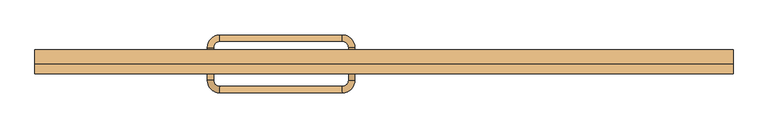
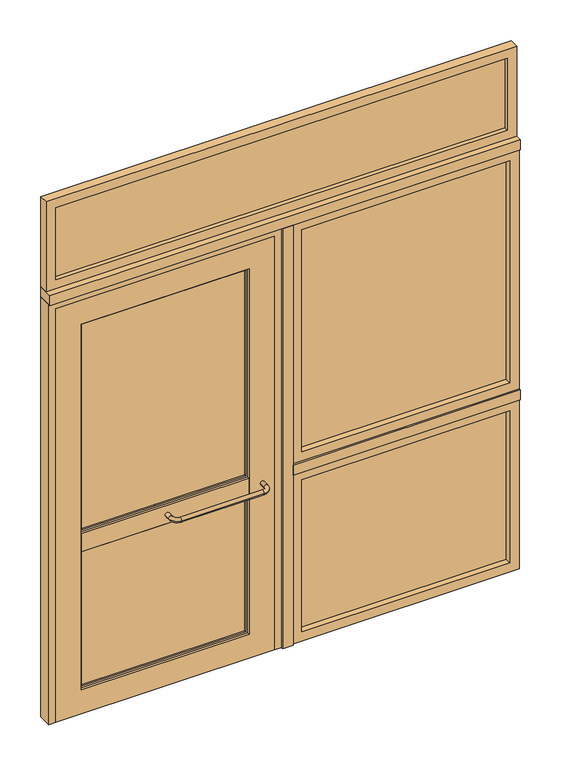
"""IFC4 building model written with IfcOpenShell, lengths in millimetres: door geometry, A2 Puerta batiente exterior con panel lateral VF superior : A2.2 Puerta batiente exterior con panel lateral 223x260."""

from ifc_helpers import new_model, si_unit, point, frame, origin, origin_with_axes, place, context, project, spatial, polyline, circle_curve, ellipse_curve, trimmed, outline, extrude, source, transform, mapped, element, save
from ifc_brep_helpers import plane_surface, cylinder_surface, revolved_surface, advanced_brep


def door_41fe6f03(model_context):
    return source(origin(), model_context, "Body", "SolidModel", [
        advanced_brep(
        [(-113.0, -28.5, 855.0), (-93.0, -28.5, 855.0), (-113.0, -58.5, 855.0), (-93.0, -58.5, 855.0), (-133.0, -78.5, 855.0), (-133.0, -98.5, 855.0), (-523.0, -78.5, 855.0), (-523.0, -98.5, 855.0), (-543.0, -58.5, 855.0), (-563.0, -58.5, 855.0), (-543.0, -28.5, 855.0), (-563.0, -28.5, 855.0)],
        [
            (0, 1, circle_curve(frame((-103.0, -28.5, 855.0), z_axis=(0.0, 1.0, 0.0), x_axis=(1.0, 0.0, 0.0)), 10.0)),
            (1, 0, circle_curve(frame((-103.0, -28.5, 855.0), z_axis=(0.0, 1.0, 0.0), x_axis=(1.0, 0.0, 0.0)), 10.0)),
            (0, 2),
            (2, 3, circle_curve(frame((-103.0, -58.5, 855.0), z_axis=(0.0, 1.0, 0.0), x_axis=(1.0, 0.0, 0.0)), 10.0)),
            (3, 1),
            (3, 2, circle_curve(frame((-103.0, -58.5, 855.0), z_axis=(0.0, 1.0, 0.0), x_axis=(1.0, 0.0, 0.0)), 10.0)),
            (4, 5, circle_curve(frame((-133.0, -88.5, 855.0), z_axis=(1.0, 0.0, 0.0), x_axis=(0.0, -1.0, 0.0)), 10.0)),
            (5, 3, circle_curve(frame((-133.0, -58.5, 855.0), z_axis=(0.0, 0.0, 1.0), x_axis=(1.0, 0.0, 0.0)), 40.0)),
            (2, 4, circle_curve(frame((-133.0, -58.5, 855.0), z_axis=(0.0, 0.0, -1.0), x_axis=(1.0, 0.0, 0.0)), 20.0)),
            (5, 4, circle_curve(frame((-133.0, -88.5, 855.0), z_axis=(1.0, 0.0, 0.0), x_axis=(0.0, -1.0, 0.0)), 10.0)),
            (4, 6),
            (6, 7, circle_curve(frame((-523.0, -88.5, 855.0), z_axis=(1.0, 0.0, 0.0), x_axis=(0.0, -1.0, 0.0)), 10.0)),
            (7, 5),
            (7, 6, circle_curve(frame((-523.0, -88.5, 855.0), z_axis=(1.0, 0.0, 0.0), x_axis=(0.0, -1.0, 0.0)), 10.0)),
            (8, 9, circle_curve(frame((-553.0, -58.5, 855.0), z_axis=(0.0, -1.0, 0.0), x_axis=(-1.0, 0.0, 0.0)), 10.0)),
            (9, 7, circle_curve(frame((-523.0, -58.5, 855.0), z_axis=(0.0, 0.0, 1.0), x_axis=(0.0, -1.0, 0.0)), 40.0)),
            (6, 8, circle_curve(frame((-523.0, -58.5, 855.0), z_axis=(0.0, 0.0, -1.0), x_axis=(0.0, -1.0, 0.0)), 20.0)),
            (9, 8, circle_curve(frame((-553.0, -58.5, 855.0), z_axis=(0.0, -1.0, 0.0), x_axis=(-1.0, 0.0, 0.0)), 10.0)),
            (10, 11, circle_curve(frame((-553.0, -28.5, 855.0), z_axis=(0.0, 1.0, 0.0), x_axis=(-1.0, 0.0, 0.0)), 10.0)),
            (11, 10, circle_curve(frame((-553.0, -28.5, 855.0), z_axis=(0.0, 1.0, 0.0), x_axis=(-1.0, 0.0, 0.0)), 10.0)),
            (8, 10),
            (11, 9),
        ],
        [
            plane_surface(frame((-103.0, -28.5, 855.0), z_axis=(0.0, 1.0, 0.0), x_axis=(0.0, 0.0, 1.0))),
            cylinder_surface(frame((-103.0, -28.5, 855.0), z_axis=(0.0, 1.0, 0.0), x_axis=(1.0, 0.0, 0.0)), 10.0),
            revolved_surface(trimmed(ellipse_curve(frame((-103.0, -58.5, 855.0), z_axis=(0.0, -1.0, 0.0), x_axis=(1.0, 0.0, 0.0)), 10.0, 10.0), [point((-93.0, -58.5, 855.0))], [point((-113.0, -58.5, 855.0))], True, "CARTESIAN"), (-133.0, -58.5, 855.0), (0.0, 0.0, 1.0)),
            revolved_surface(trimmed(ellipse_curve(frame((-103.0, -58.5, 855.0), z_axis=(0.0, -1.0, 0.0), x_axis=(1.0, 0.0, 0.0)), 10.0, 10.0), [point((-113.0, -58.5, 855.0))], [point((-93.0, -58.5, 855.0))], True, "CARTESIAN"), (-133.0, -58.5, 855.0), (0.0, 0.0, 1.0)),
            cylinder_surface(frame((-133.0, -88.5, 855.0), z_axis=(1.0, 0.0, 0.0), x_axis=(0.0, -1.0, 0.0)), 10.0),
            revolved_surface(trimmed(ellipse_curve(frame((-523.0, -88.5, 855.0), z_axis=(-1.0, 0.0, 0.0), x_axis=(0.0, -1.0, 0.0)), 10.0, 10.0), [point((-523.0, -98.5, 855.0))], [point((-523.0, -78.5, 855.0))], True, "CARTESIAN"), (-523.0, -58.5, 855.0), (0.0, 0.0, 1.0)),
            revolved_surface(trimmed(ellipse_curve(frame((-523.0, -88.5, 855.0), z_axis=(-1.0, 0.0, 0.0), x_axis=(0.0, -1.0, 0.0)), 10.0, 10.0), [point((-523.0, -78.5, 855.0))], [point((-523.0, -98.5, 855.0))], True, "CARTESIAN"), (-523.0, -58.5, 855.0), (0.0, 0.0, 1.0)),
            plane_surface(frame((-553.0, -28.5, 855.0), z_axis=(0.0, 1.0, 0.0), x_axis=(0.0, 0.0, 1.0))),
            cylinder_surface(frame((-553.0, -58.5, 855.0), z_axis=(0.0, -1.0, 0.0), x_axis=(-1.0, 0.0, 0.0)), 10.0),
        ],
        [
            (0, [[1, 2]]),
            (1, [[3, 4, 5, -1]]),
            (1, [[-5, 6, -3, -2]]),
            (2, [[7, 8, -4, 9]]),
            (3, [[10, -9, -6, -8]]),
            (4, [[11, 12, 13, -7]]),
            (4, [[-13, 14, -11, -10]]),
            (5, [[15, 16, -12, 17]]),
            (6, [[18, -17, -14, -16]]),
            (7, [[19, 20]]),
            (8, [[21, -20, 22, -15]]),
            (8, [[-22, -19, -21, -18]]),
        ],
    ),
        advanced_brep(
        [(-113.0, 15.5, 855.0), (-93.0, 15.5, 855.0), (-93.0, 45.5, 855.0), (-113.0, 45.5, 855.0), (-133.0, 65.5, 855.0), (-133.0, 85.5, 855.0), (-523.0, 85.5, 855.0), (-523.0, 65.5, 855.0), (-543.0, 45.5, 855.0), (-563.0, 45.5, 855.0), (-543.0, 15.5, 855.0), (-563.0, 15.5, 855.0)],
        [
            (0, 1, circle_curve(frame((-103.0, 15.5, 855.0), z_axis=(0.0, -1.0, 0.0), x_axis=(1.0, 0.0, 0.0)), 10.0)),
            (1, 0, circle_curve(frame((-103.0, 15.5, 855.0), z_axis=(0.0, -1.0, 0.0), x_axis=(1.0, 0.0, 0.0)), 10.0)),
            (1, 2),
            (2, 3, circle_curve(frame((-103.0, 45.5, 855.0), z_axis=(0.0, -1.0, 0.0), x_axis=(1.0, 0.0, 0.0)), 10.0)),
            (3, 0),
            (3, 2, circle_curve(frame((-103.0, 45.5, 855.0), z_axis=(0.0, -1.0, 0.0), x_axis=(1.0, 0.0, 0.0)), 10.0)),
            (4, 3, circle_curve(frame((-133.0, 45.5, 855.0), z_axis=(0.0, 0.0, -1.0), x_axis=(1.0, 0.0, 0.0)), 20.0)),
            (2, 5, circle_curve(frame((-133.0, 45.5, 855.0), z_axis=(0.0, 0.0, 1.0), x_axis=(1.0, 0.0, 0.0)), 40.0)),
            (5, 4, circle_curve(frame((-133.0, 75.5, 855.0), z_axis=(1.0, 0.0, 0.0), x_axis=(0.0, 1.0, 0.0)), 10.0)),
            (4, 5, circle_curve(frame((-133.0, 75.5, 855.0), z_axis=(1.0, 0.0, 0.0), x_axis=(0.0, 1.0, 0.0)), 10.0)),
            (5, 6),
            (6, 7, circle_curve(frame((-523.0, 75.5, 855.0), z_axis=(1.0, 0.0, 0.0), x_axis=(0.0, 1.0, 0.0)), 10.0)),
            (7, 4),
            (7, 6, circle_curve(frame((-523.0, 75.5, 855.0), z_axis=(1.0, 0.0, 0.0), x_axis=(0.0, 1.0, 0.0)), 10.0)),
            (8, 7, circle_curve(frame((-523.0, 45.5, 855.0), z_axis=(0.0, 0.0, -1.0), x_axis=(0.0, 1.0, 0.0)), 20.0)),
            (6, 9, circle_curve(frame((-523.0, 45.5, 855.0), z_axis=(0.0, 0.0, 1.0), x_axis=(0.0, 1.0, 0.0)), 40.0)),
            (9, 8, circle_curve(frame((-553.0, 45.5, 855.0), z_axis=(0.0, 1.0, 0.0), x_axis=(-1.0, 0.0, 0.0)), 10.0)),
            (8, 9, circle_curve(frame((-553.0, 45.5, 855.0), z_axis=(0.0, 1.0, 0.0), x_axis=(-1.0, 0.0, 0.0)), 10.0)),
            (10, 11, circle_curve(frame((-553.0, 15.5, 855.0), z_axis=(0.0, -1.0, 0.0), x_axis=(-1.0, 0.0, 0.0)), 10.0)),
            (11, 10, circle_curve(frame((-553.0, 15.5, 855.0), z_axis=(0.0, -1.0, 0.0), x_axis=(-1.0, 0.0, 0.0)), 10.0)),
            (9, 11),
            (10, 8),
        ],
        [
            plane_surface(frame((-103.0, 15.5, 855.0), z_axis=(0.0, -1.0, 0.0), x_axis=(0.0, 0.0, 1.0))),
            cylinder_surface(frame((-103.0, 15.5, 855.0), z_axis=(0.0, -1.0, 0.0), x_axis=(1.0, 0.0, 0.0)), 10.0),
            revolved_surface(trimmed(ellipse_curve(frame((-103.0, 45.5, 855.0), z_axis=(0.0, -1.0, 0.0), x_axis=(1.0, 0.0, 0.0)), 10.0, 10.0), [point((-93.0, 45.5, 855.0))], [point((-113.0, 45.5, 855.0))], True, "CARTESIAN"), (-133.0, 45.5, 855.0), (0.0, 0.0, 1.0)),
            revolved_surface(trimmed(ellipse_curve(frame((-103.0, 45.5, 855.0), z_axis=(0.0, -1.0, 0.0), x_axis=(1.0, 0.0, 0.0)), 10.0, 10.0), [point((-113.0, 45.5, 855.0))], [point((-93.0, 45.5, 855.0))], True, "CARTESIAN"), (-133.0, 45.5, 855.0), (0.0, 0.0, 1.0)),
            cylinder_surface(frame((-133.0, 75.5, 855.0), z_axis=(1.0, 0.0, 0.0), x_axis=(0.0, 1.0, 0.0)), 10.0),
            revolved_surface(trimmed(ellipse_curve(frame((-523.0, 75.5, 855.0), z_axis=(1.0, 0.0, 0.0), x_axis=(0.0, 1.0, 0.0)), 10.0, 10.0), [point((-523.0, 85.5, 855.0))], [point((-523.0, 65.5, 855.0))], True, "CARTESIAN"), (-523.0, 45.5, 855.0), (0.0, 0.0, 1.0)),
            revolved_surface(trimmed(ellipse_curve(frame((-523.0, 75.5, 855.0), z_axis=(1.0, 0.0, 0.0), x_axis=(0.0, 1.0, 0.0)), 10.0, 10.0), [point((-523.0, 65.5, 855.0))], [point((-523.0, 85.5, 855.0))], True, "CARTESIAN"), (-523.0, 45.5, 855.0), (0.0, 0.0, 1.0)),
            plane_surface(frame((-553.0, 15.5, 855.0), z_axis=(0.0, -1.0, 0.0), x_axis=(0.0, 0.0, 1.0))),
            cylinder_surface(frame((-553.0, 45.5, 855.0), z_axis=(0.0, 1.0, 0.0), x_axis=(-1.0, 0.0, 0.0)), 10.0),
        ],
        [
            (0, [[1, 2]]),
            (1, [[-2, 3, 4, 5]]),
            (1, [[-1, -5, 6, -3]]),
            (2, [[7, -4, 8, 9]]),
            (3, [[-8, -6, -7, 10]]),
            (4, [[-9, 11, 12, 13]]),
            (4, [[-10, -13, 14, -11]]),
            (5, [[15, -12, 16, 17]]),
            (6, [[-16, -14, -15, 18]]),
            (7, [[19, 20]]),
            (8, [[-17, 21, -19, 22]]),
            (8, [[-18, -22, -20, -21]]),
        ],
    ),
        extrude(outline(polyline([(1067.5, 7.9019238), (1067.5, 1.9019238), (82.5, 1.9019238), (82.5, 7.9019238), (1067.5, 7.9019238)])), frame((0.0, 0.0, 45.0), z_axis=(0.0, 0.0, 1.0), x_axis=(1.0, 0.0, 0.0)), (0.0, 0.0, 1.0), 760.0),
        extrude(outline(polyline([(1067.5, 7.9019238), (1067.5, 1.9019238), (82.5, 1.9019238), (82.5, 7.9019238), (1067.5, 7.9019238)])), frame((0.0, 0.0, 945.0), z_axis=(0.0, 0.0, 1.0), x_axis=(1.0, 0.0, 0.0)), (0.0, 0.0, 1.0), 1110.0),
        extrude(outline(polyline([(850.0, 37.5), (0.0, 37.5), (0.0, 1112.5), (850.0, 1112.5), (850.0, 37.5)]), holes=[polyline([(805.0, 82.5), (805.0, 1067.5), (45.0, 1067.5), (45.0, 82.5), (805.0, 82.5)])]), frame((0.0, -28.5, 0.0), z_axis=(0.0, 1.0, 0.0), x_axis=(0.0, 0.0, 1.0)), (0.0, 0.0, 1.0), 66.0),
        extrude(outline(polyline([(2100.0, 37.5), (900.0, 37.5), (900.0, 1112.5), (2100.0, 1112.5), (2100.0, 37.5)]), holes=[polyline([(2055.0, 82.5), (2055.0, 1067.5), (945.0, 1067.5), (945.0, 82.5), (2055.0, 82.5)])]), frame((0.0, -28.5, 0.0), z_axis=(0.0, 1.0, 0.0), x_axis=(0.0, 0.0, 1.0)), (0.0, 0.0, 1.0), 66.0),
        extrude(outline(polyline([(1112.5, 37.5), (1112.5, -37.5), (37.5, -37.5), (37.5, 37.5), (1112.5, 37.5)])), frame((0.0, 0.0, 850.0), z_axis=(0.0, 0.0, 1.0), x_axis=(1.0, 0.0, 0.0)), (0.0, 0.0, 1.0), 50.0),
        extrude(outline(polyline([(37.5, 37.5), (37.5, -37.5), (-12.5, -37.5), (-12.5, 37.5), (37.5, 37.5)])), origin_with_axes(), (0.0, 0.0, 1.0), 2100.0),
        extrude(outline(polyline([(1067.5, 18.5), (1067.5, 12.5), (-1067.5, 12.5), (-1067.5, 18.5), (1067.5, 18.5)])), frame((0.0, 0.0, 2195.0), z_axis=(0.0, 0.0, 1.0), x_axis=(1.0, 0.0, 0.0)), (0.0, 0.0, 1.0), 360.0),
        extrude(outline(polyline([(2600.0, -1112.5), (2150.0, -1112.5), (2150.0, 1112.5), (2600.0, 1112.5), (2600.0, -1112.5)]), holes=[polyline([(2555.0, -1067.5), (2555.0, 1067.5), (2195.0, 1067.5), (2195.0, -1067.5), (2555.0, -1067.5)])]), frame((0.0, -6.5, 0.0), z_axis=(0.0, 1.0, 0.0), x_axis=(0.0, 0.0, 1.0)), (0.0, 0.0, 1.0), 44.0),
        extrude(outline(polyline([(-175.5, -3.5), (-175.5, -9.5), (-949.5, -9.5), (-949.5, -3.5), (-175.5, -3.5)])), frame((0.0, 0.0, 910.0), z_axis=(0.0, 0.0, 1.0), x_axis=(1.0, 0.0, 0.0)), (0.0, 0.0, 1.0), 1027.0),
        extrude(outline(polyline([(-175.5, -3.5), (-175.5, -9.5), (-949.5, -9.5), (-949.5, -3.5), (-175.5, -3.5)])), frame((0.0, 0.0, 130.0), z_axis=(0.0, 0.0, 1.0), x_axis=(1.0, 0.0, 0.0)), (0.0, 0.0, 1.0), 670.0),
        extrude(outline(polyline([(1947.0, -959.5), (900.0, -959.5), (900.0, -165.5), (1947.0, -165.5), (1947.0, -959.5)]), holes=[polyline([(1937.0, -949.5), (1937.0, -175.5), (910.0, -175.5), (910.0, -949.5), (1937.0, -949.5)])]), frame((0.0, -16.5, 0.0), z_axis=(0.0, 1.0, 0.0), x_axis=(0.0, 0.0, 1.0)), (0.0, 0.0, 1.0), 20.0),
        extrude(outline(polyline([(810.0, -959.5), (120.0, -959.5), (120.0, -165.5), (810.0, -165.5), (810.0, -959.5)]), holes=[polyline([(800.0, -949.5), (800.0, -175.5), (130.0, -175.5), (130.0, -949.5), (800.0, -949.5)])]), frame((0.0, -16.5, 0.0), z_axis=(0.0, 1.0, 0.0), x_axis=(0.0, 0.0, 1.0)), (0.0, 0.0, 1.0), 20.0),
        extrude(outline(polyline([(-165.5, 15.5), (-165.5, -28.5), (-959.5, -28.5), (-959.5, 15.5), (-165.5, 15.5)])), frame((0.0, 0.0, 810.0), z_axis=(0.0, 0.0, 1.0), x_axis=(1.0, 0.0, 0.0)), (0.0, 0.0, 1.0), 90.0),
        extrude(outline(polyline([(2067.0, -1079.5), (0.0, -1079.5), (0.0, -45.5), (2067.0, -45.5), (2067.0, -1079.5)]), holes=[polyline([(1947.0, -959.5), (1947.0, -165.5), (120.0, -165.5), (120.0, -959.5), (1947.0, -959.5)])]), frame((0.0, -28.5, 0.0), z_axis=(0.0, 1.0, 0.0), x_axis=(0.0, 0.0, 1.0)), (0.0, 0.0, 1.0), 44.0),
        extrude(outline(polyline([(2100.0, -12.5), (2100.0, -1112.5), (0.0, -1112.5), (0.0, -1079.5), (2067.0, -1079.5), (2067.0, -45.5), (0.0, -45.5), (0.0, -12.5), (2100.0, -12.5)])), frame((0.0, -28.5, 0.0), z_axis=(0.0, 1.0, 0.0), x_axis=(0.0, 0.0, 1.0)), (0.0, 0.0, 1.0), 66.0),
        extrude(outline(polyline([(1112.5, 37.5), (1112.5, -37.5), (-1112.5, -37.5), (-1112.5, 37.5), (1112.5, 37.5)])), frame((0.0, 0.0, 2100.0), z_axis=(0.0, 0.0, 1.0), x_axis=(1.0, 0.0, 0.0)), (0.0, 0.0, 1.0), 50.0),
    ])


if __name__ == "__main__":
    model = new_model("IFC4")
    model_context = context("Model", 3, world=origin())
    ifc_project = project(units=[si_unit("LENGTHUNIT", "METRE", prefix="MILLI")], contexts=[model_context])
    site = spatial("IfcSite", under=ifc_project)
    building = spatial("IfcBuilding", under=site)
    placement = place(None, origin())
    door_shape = door_41fe6f03(model_context)
    element("IfcDoor", 1, ObjectType="A2 Puerta batiente exterior con panel lateral VF superior : A2.2 Puerta batiente exterior con panel lateral 223x260", at=placement, inside=building, context=model_context, shape_type="MappedRepresentation", body=[
        mapped(door_shape, transform((0.0, 0.0, 0.0), x_axis=(1.0, 0.0, 0.0), y_axis=(0.0, 1.0, 0.0), z_axis=(0.0, 0.0, 1.0))),
    ])
    save(model, "model.ifc")
